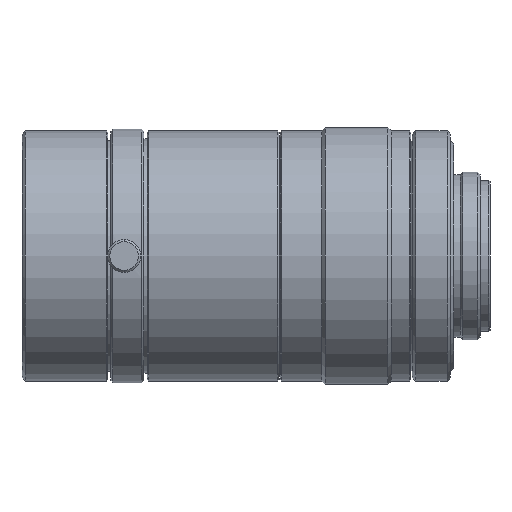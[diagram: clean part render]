
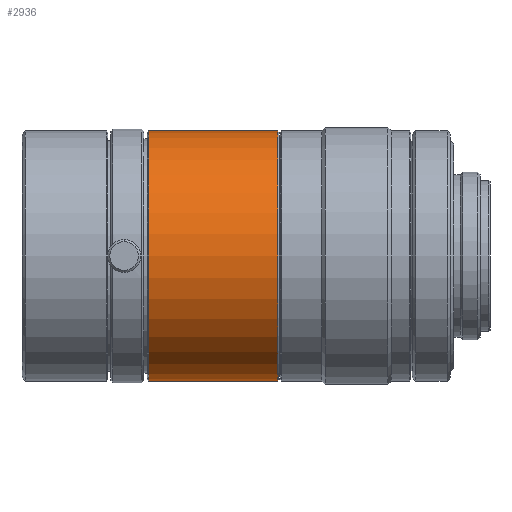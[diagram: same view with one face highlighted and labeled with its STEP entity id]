
A CAD part, front view. The second image highlights one B-rep face of the part: STEP entity #2936.
In plain terms, the highlighted cylindrical face has radius 19 mm (diameter 38 mm), a partial arc.
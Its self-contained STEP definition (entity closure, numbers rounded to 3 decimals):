
#283 = AXIS2_PLACEMENT_3D ( 'NONE', #2387, #390, #3502 ) ;
#325 = DIRECTION ( 'NONE',  ( 0., 0., 1. ) ) ;
#390 = DIRECTION ( 'NONE',  ( -1., 0., 0. ) ) ;
#520 = CARTESIAN_POINT ( 'NONE',  ( -88.99, 0., 19. ) ) ;
#566 = CYLINDRICAL_SURFACE ( 'NONE', #3666, 19. ) ;
#569 = DIRECTION ( 'NONE',  ( -1., 0., 0. ) ) ;
#978 = VERTEX_POINT ( 'NONE', #1769 ) ;
#1022 = VERTEX_POINT ( 'NONE', #3539 ) ;
#1088 = DIRECTION ( 'NONE',  ( -1., 0., 0. ) ) ;
#1101 = DIRECTION ( 'NONE',  ( -1., 0., 0. ) ) ;
#1122 = LINE ( 'NONE', #520, #3236 ) ;
#1335 = EDGE_CURVE ( 'NONE', #2074, #978, #2563, .T. ) ;
#1508 = ORIENTED_EDGE ( 'NONE', *, *, #3044, .T. ) ;
#1547 = VECTOR ( 'NONE', #569, 1000. ) ;
#1685 = DIRECTION ( 'NONE',  ( 0., 0., 1. ) ) ;
#1723 = CARTESIAN_POINT ( 'NONE',  ( -88.99, 0., 0. ) ) ;
#1769 = CARTESIAN_POINT ( 'NONE',  ( -63.8, 0., -19. ) ) ;
#2074 = VERTEX_POINT ( 'NONE', #3301 ) ;
#2169 = VERTEX_POINT ( 'NONE', #2776 ) ;
#2230 = EDGE_CURVE ( 'NONE', #1022, #2169, #1122, .T. ) ;
#2241 = CIRCLE ( 'NONE', #2952, 19. ) ;
#2268 = CARTESIAN_POINT ( 'NONE',  ( -88.99, 0., -19. ) ) ;
#2275 = ORIENTED_EDGE ( 'NONE', *, *, #2230, .T. ) ;
#2387 = CARTESIAN_POINT ( 'NONE',  ( -63.8, 0., 0. ) ) ;
#2563 = LINE ( 'NONE', #2268, #1547 ) ;
#2590 = CIRCLE ( 'NONE', #283, 19. ) ;
#2742 = EDGE_CURVE ( 'NONE', #978, #2169, #2590, .T. ) ;
#2748 = EDGE_LOOP ( 'NONE', ( #3417, #1508, #2275, #2765 ) ) ;
#2765 = ORIENTED_EDGE ( 'NONE', *, *, #2742, .F. ) ;
#2776 = CARTESIAN_POINT ( 'NONE',  ( -63.8, 0., 19. ) ) ;
#2936 = ADVANCED_FACE ( 'NONE', ( #3119 ), #566, .T. ) ;
#2952 = AXIS2_PLACEMENT_3D ( 'NONE', #3649, #1088, #325 ) ;
#3044 = EDGE_CURVE ( 'NONE', #2074, #1022, #2241, .T. ) ;
#3119 = FACE_OUTER_BOUND ( 'NONE', #2748, .T. ) ;
#3236 = VECTOR ( 'NONE', #1101, 1000. ) ;
#3301 = CARTESIAN_POINT ( 'NONE',  ( -44.2, 0., -19. ) ) ;
#3417 = ORIENTED_EDGE ( 'NONE', *, *, #1335, .F. ) ;
#3502 = DIRECTION ( 'NONE',  ( 0., 0., 1. ) ) ;
#3539 = CARTESIAN_POINT ( 'NONE',  ( -44.2, 0., 19. ) ) ;
#3649 = CARTESIAN_POINT ( 'NONE',  ( -44.2, 0., 0. ) ) ;
#3663 = DIRECTION ( 'NONE',  ( -1., 0., 0. ) ) ;
#3666 = AXIS2_PLACEMENT_3D ( 'NONE', #1723, #3663, #1685 ) ;
